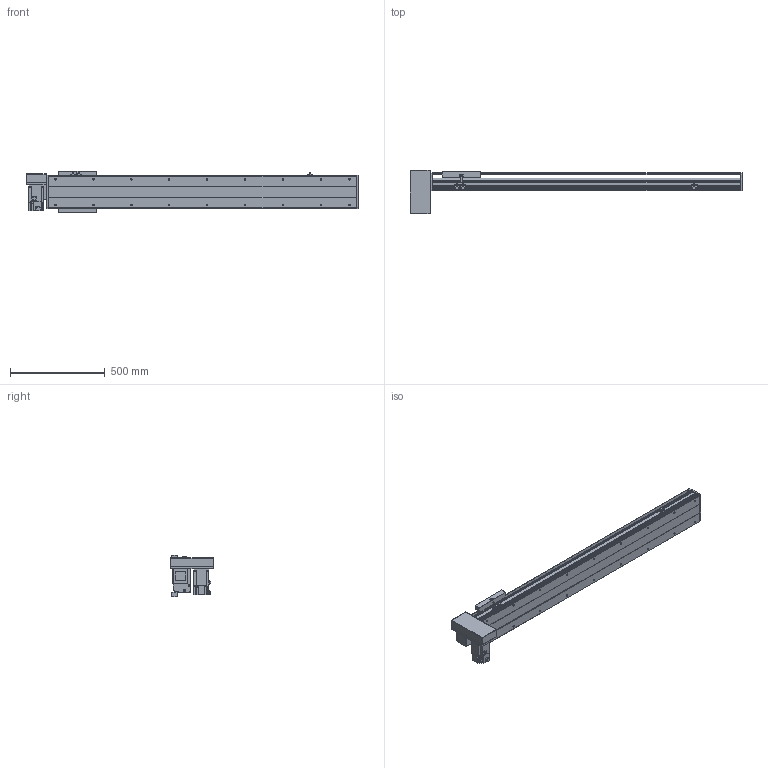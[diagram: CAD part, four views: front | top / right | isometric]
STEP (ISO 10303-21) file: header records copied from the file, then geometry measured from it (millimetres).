
FILE_DESCRIPTION(/* description */ ('STEP AP214'),/* implementation_level */ '2;1');
FILE_NAME(/* name */ 'PBS200-P40-S1250-RD-T75-C1-N(0)',/* time_stamp */ '2022-06-11T09:29:38+02:00',/* author */ ('License CC BY-ND 4.0'),/* organization */ ('CADENAS'),/* preprocessor_version */ 'ST-DEVELOPER v18.102',/* originating_system */ 'PARTsolutions',/* authorisation */ ' ');
FILE_SCHEMA (('AUTOMOTIVE_DESIGN {1 0 10303 214 3 1 1}'));
Length unit declared in the file: millimetre
Products named in the file (7): PBS200-P40-S1250-RD-T75-C1-N(0); PBS200_sensor; PBS200_plant; PBS200_sliser; T75-p1; PBS200T-RD_motors; PBS200-S1250()_body
Assembly tree (8 placements, depth 2):
  PBS200-P40-S1250-RD-T75-C1-N(0)
    PBS200_sensor  x3
    PBS200_plant
    PBS200_sliser
    T75-p1
    PBS200T-RD_motors
    PBS200-S1250()_body
Bounding box: 1750 x 230 x 221 mm (x, y, z)
Volume: 12798510.5 mm3; surface area: 2065612.7 mm2
Topology: 8 solids, 8 shells, 926 faces, 2384 edges, 1554 vertices
Faces by surface type: plane 576, cylinder 300, cone 50
Full cylindrical faces by diameter (mm): 2.459 x6, 3.242 x4, 4.5 x6, 4.917 x4, 5 x6, 6 x7, 6.6 x8, 6.647 x22, 8 x6, 10 x4, 12 x8, 38 x2, 40 x1, 70 x1
Entity records: 24701 total; most frequent: DIRECTION 4351, CARTESIAN_POINT 4210, ORIENTED_EDGE 3994, EDGE_CURVE 1997, AXIS2_PLACEMENT_3D 1519, VERTEX_POINT 1378, LINE 1313, VECTOR 1313
